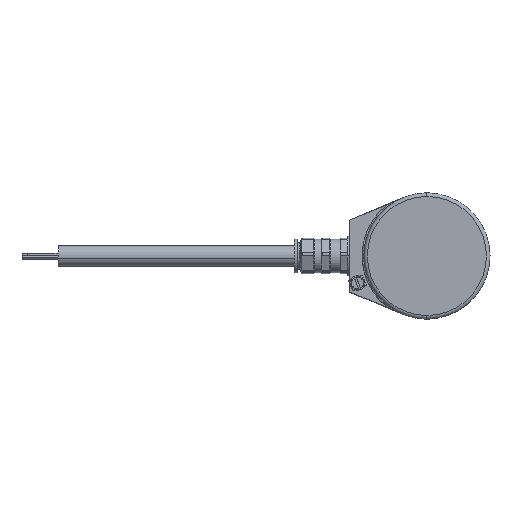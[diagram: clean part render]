
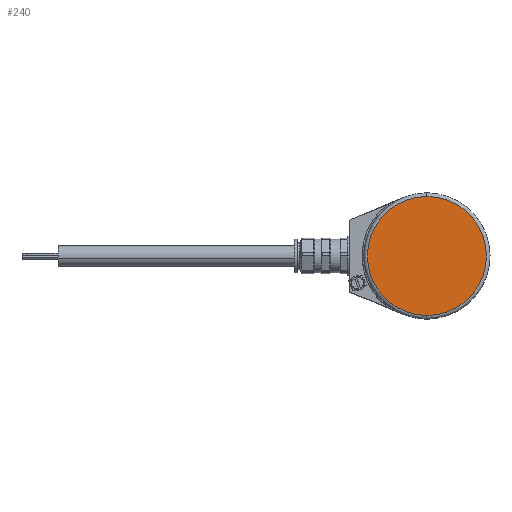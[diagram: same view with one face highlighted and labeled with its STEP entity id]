
A CAD part, left-side view. The second image highlights one B-rep face of the part: STEP entity #240.
In plain terms, the highlighted planar face has unit normal (-1, 0, 0).
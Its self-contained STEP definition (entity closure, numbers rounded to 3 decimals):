
#240 = ADVANCED_FACE ( 'NONE', ( #2116 ), #18375, .F. ) ;
#2116 = FACE_OUTER_BOUND ( 'NONE', #12790, .T. ) ;
#2127 = AXIS2_PLACEMENT_3D ( 'NONE', #18376, #18377, #18378 ) ;
#3571 = EDGE_CURVE ( 'NONE', #4224, #16187, #30651, .T. ) ;
#3594 = EDGE_CURVE ( 'NONE', #16187, #4224, #30669, .T. ) ;
#4224 = VERTEX_POINT ( 'NONE', #7620 ) ;
#7620 = CARTESIAN_POINT ( 'NONE',  ( -70.2, 0., 33. ) ) ;
#9789 = ORIENTED_EDGE ( 'NONE', *, *, #3594, .T. ) ;
#9790 = ORIENTED_EDGE ( 'NONE', *, *, #3571, .T. ) ;
#12790 = EDGE_LOOP ( 'NONE', ( #9789, #9790 ) ) ;
#14841 = CARTESIAN_POINT ( 'NONE',  ( -70.2, 0., 0. ) ) ;
#14842 = DIRECTION ( 'NONE',  ( -1., 0., 0. ) ) ;
#14843 = DIRECTION ( 'NONE',  ( 0., 0., -1. ) ) ;
#14953 = CARTESIAN_POINT ( 'NONE',  ( -70.2, 0., 0. ) ) ;
#14954 = DIRECTION ( 'NONE',  ( -1., 0., 0. ) ) ;
#14955 = DIRECTION ( 'NONE',  ( 0., 0., -1. ) ) ;
#16187 = VERTEX_POINT ( 'NONE', #26534 ) ;
#18375 = PLANE ( 'NONE',  #2127 ) ;
#18376 = CARTESIAN_POINT ( 'NONE',  ( -70.2, 0., 0. ) ) ;
#18377 = DIRECTION ( 'NONE',  ( 1., 0., 0. ) ) ;
#18378 = DIRECTION ( 'NONE',  ( 0., 0., 1. ) ) ;
#23289 = AXIS2_PLACEMENT_3D ( 'NONE', #14953, #14954, #14955 ) ;
#23290 = AXIS2_PLACEMENT_3D ( 'NONE', #14841, #14842, #14843 ) ;
#26534 = CARTESIAN_POINT ( 'NONE',  ( -70.2, 0., -33. ) ) ;
#30651 = CIRCLE ( 'NONE', #23290, 33. ) ;
#30669 = CIRCLE ( 'NONE', #23289, 33. ) ;
